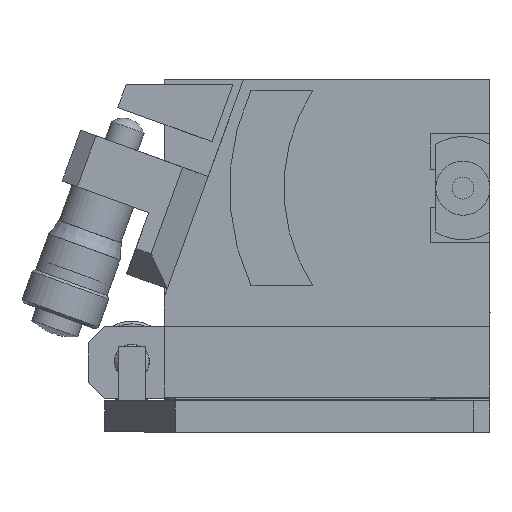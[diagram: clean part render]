
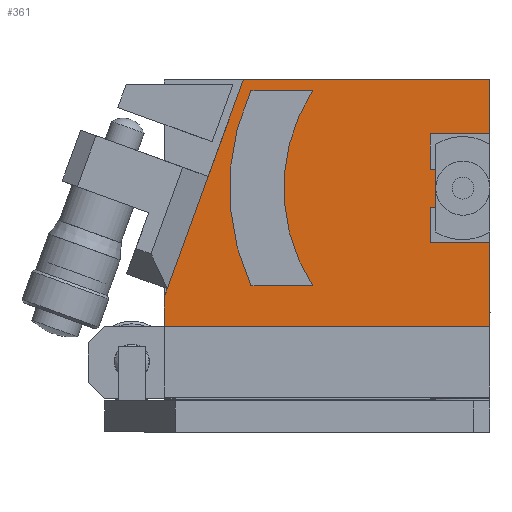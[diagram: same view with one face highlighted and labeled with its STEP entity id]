
A CAD part, front view. The second image highlights one B-rep face of the part: STEP entity #361.
In plain terms, the highlighted planar face has unit normal (0, -1, 0).
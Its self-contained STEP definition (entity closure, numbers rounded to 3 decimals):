
#361 = ADVANCED_FACE( '', ( #732, #733, #734 ), #735, .T. );
#732 = FACE_OUTER_BOUND( '', #1344, .T. );
#733 = FACE_BOUND( '', #1345, .T. );
#734 = FACE_BOUND( '', #1346, .T. );
#735 = PLANE( '', #1347 );
#1344 = EDGE_LOOP( '', ( #2266, #2267, #2268, #2269, #2270, #2271, #2272, #2273, #2274, #2275, #2276, #2277, #2278, #2279, #2280 ) );
#1345 = EDGE_LOOP( '', ( #2281, #2282, #2283, #2284 ) );
#1346 = EDGE_LOOP( '', ( #2285 ) );
#1347 = AXIS2_PLACEMENT_3D( '', #2286, #2287, #2288 );
#2266 = ORIENTED_EDGE( '', *, *, #3291, .F. );
#2267 = ORIENTED_EDGE( '', *, *, #3340, .F. );
#2268 = ORIENTED_EDGE( '', *, *, #3265, .T. );
#2269 = ORIENTED_EDGE( '', *, *, #3341, .T. );
#2270 = ORIENTED_EDGE( '', *, *, #3269, .T. );
#2271 = ORIENTED_EDGE( '', *, *, #3286, .F. );
#2272 = ORIENTED_EDGE( '', *, *, #3342, .T. );
#2273 = ORIENTED_EDGE( '', *, *, #3343, .F. );
#2274 = ORIENTED_EDGE( '', *, *, #3344, .F. );
#2275 = ORIENTED_EDGE( '', *, *, #3257, .F. );
#2276 = ORIENTED_EDGE( '', *, *, #3345, .F. );
#2277 = ORIENTED_EDGE( '', *, *, #3300, .T. );
#2278 = ORIENTED_EDGE( '', *, *, #3346, .F. );
#2279 = ORIENTED_EDGE( '', *, *, #3347, .F. );
#2280 = ORIENTED_EDGE( '', *, *, #3263, .F. );
#2281 = ORIENTED_EDGE( '', *, *, #3348, .F. );
#2282 = ORIENTED_EDGE( '', *, *, #3349, .F. );
#2283 = ORIENTED_EDGE( '', *, *, #3304, .F. );
#2284 = ORIENTED_EDGE( '', *, *, #3350, .F. );
#2285 = ORIENTED_EDGE( '', *, *, #3351, .T. );
#2286 = CARTESIAN_POINT( '', ( -197.124, 11.2, 519.248 ) );
#2287 = DIRECTION( '', ( 0., -1., 0. ) );
#2288 = DIRECTION( '', ( 0., 0., -1. ) );
#3257 = EDGE_CURVE( '', #3812, #3807, #3814, .T. );
#3263 = EDGE_CURVE( '', #3824, #3819, #3826, .T. );
#3265 = EDGE_CURVE( '', #3830, #3827, #3831, .T. );
#3269 = EDGE_CURVE( '', #3838, #3836, #3839, .T. );
#3286 = EDGE_CURVE( '', #3868, #3836, #3870, .T. );
#3291 = EDGE_CURVE( '', #3876, #3824, #3878, .T. );
#3300 = EDGE_CURVE( '', #3895, #3893, #3896, .T. );
#3304 = EDGE_CURVE( '', #3900, #3903, #3904, .F. );
#3340 = EDGE_CURVE( '', #3830, #3876, #3965, .T. );
#3341 = EDGE_CURVE( '', #3827, #3838, #3966, .F. );
#3342 = EDGE_CURVE( '', #3868, #3967, #3968, .F. );
#3343 = EDGE_CURVE( '', #3969, #3967, #3970, .T. );
#3344 = EDGE_CURVE( '', #3807, #3969, #3971, .T. );
#3345 = EDGE_CURVE( '', #3895, #3812, #3972, .T. );
#3346 = EDGE_CURVE( '', #3973, #3893, #3974, .T. );
#3347 = EDGE_CURVE( '', #3819, #3973, #3975, .T. );
#3348 = EDGE_CURVE( '', #3976, #3977, #3978, .T. );
#3349 = EDGE_CURVE( '', #3903, #3976, #3979, .F. );
#3350 = EDGE_CURVE( '', #3977, #3900, #3980, .F. );
#3351 = EDGE_CURVE( '', #3981, #3981, #3982, .F. );
#3807 = VERTEX_POINT( '', #4632 );
#3812 = VERTEX_POINT( '', #4639 );
#3814 = LINE( '', #4642, #4643 );
#3819 = VERTEX_POINT( '', #4648 );
#3824 = VERTEX_POINT( '', #4655 );
#3826 = LINE( '', #4658, #4659 );
#3827 = VERTEX_POINT( '', #4660 );
#3830 = VERTEX_POINT( '', #4664 );
#3831 = LINE( '', #4665, #4666 );
#3836 = VERTEX_POINT( '', #4673 );
#3838 = VERTEX_POINT( '', #4676 );
#3839 = LINE( '', #4677, #4678 );
#3868 = VERTEX_POINT( '', #4718 );
#3870 = LINE( '', #4721, #4722 );
#3876 = VERTEX_POINT( '', #4731 );
#3878 = LINE( '', #4734, #4735 );
#3893 = VERTEX_POINT( '', #4763 );
#3895 = VERTEX_POINT( '', #4766 );
#3896 = LINE( '', #4767, #4768 );
#3900 = VERTEX_POINT( '', #4774 );
#3903 = VERTEX_POINT( '', #4778 );
#3904 = CIRCLE( '', #4779, 33. );
#3965 = LINE( '', #4869, #4870 );
#3966 = LINE( '', #4871, #4872 );
#3967 = VERTEX_POINT( '', #4873 );
#3968 = LINE( '', #4874, #4875 );
#3969 = VERTEX_POINT( '', #4876 );
#3970 = LINE( '', #4877, #4878 );
#3971 = LINE( '', #4879, #4880 );
#3972 = LINE( '', #4881, #4882 );
#3973 = VERTEX_POINT( '', #4883 );
#3974 = LINE( '', #4884, #4885 );
#3975 = LINE( '', #4886, #4887 );
#3976 = VERTEX_POINT( '', #4888 );
#3977 = VERTEX_POINT( '', #4889 );
#3978 = CIRCLE( '', #4890, 43. );
#3979 = LINE( '', #4891, #4892 );
#3980 = LINE( '', #4893, #4894 );
#3981 = VERTEX_POINT( '', #4895 );
#3982 = CIRCLE( '', #4896, 0.935 );
#4632 = CARTESIAN_POINT( '', ( -11., 11.2, 35. ) );
#4639 = CARTESIAN_POINT( '', ( -11., 11.2, 41.5 ) );
#4642 = CARTESIAN_POINT( '', ( -11., 11.2, 41.5 ) );
#4643 = VECTOR( '', #5630, 1000. );
#4648 = CARTESIAN_POINT( '', ( -11., 11.2, 55. ) );
#4655 = CARTESIAN_POINT( '', ( 0., 11.2, 55. ) );
#4658 = CARTESIAN_POINT( '', ( 425.059, 11.2, 55. ) );
#4659 = VECTOR( '', #5640, 1000. );
#4660 = CARTESIAN_POINT( '', ( -51.94, 11.2, 47.146 ) );
#4664 = CARTESIAN_POINT( '', ( -45.441, 11.2, 65. ) );
#4665 = CARTESIAN_POINT( '', ( 82.808, 11.2, 417.361 ) );
#4666 = VECTOR( '', #5642, 1000. );
#4673 = CARTESIAN_POINT( '', ( -60., 11.2, 25. ) );
#4676 = CARTESIAN_POINT( '', ( -59.464, 11.2, 26.473 ) );
#4677 = CARTESIAN_POINT( '', ( 82.808, 11.2, 417.361 ) );
#4678 = VECTOR( '', #5646, 1000. );
#4718 = CARTESIAN_POINT( '', ( -60., 11.2, 19.5 ) );
#4721 = CARTESIAN_POINT( '', ( -60., 11.2, -140.253 ) );
#4722 = VECTOR( '', #5668, 1000. );
#4731 = CARTESIAN_POINT( '', ( 0., 11.2, 65. ) );
#4734 = CARTESIAN_POINT( '', ( 0., 11.2, 35.75 ) );
#4735 = VECTOR( '', #5673, 1000. );
#4763 = CARTESIAN_POINT( '', ( -4., 11.2, 48.5 ) );
#4766 = CARTESIAN_POINT( '', ( -4., 11.2, 41.5 ) );
#4767 = CARTESIAN_POINT( '', ( -4., 11.2, 519.248 ) );
#4768 = VECTOR( '', #5681, 1000. );
#4774 = CARTESIAN_POINT( '', ( -32.659, 11.2, 27. ) );
#4778 = CARTESIAN_POINT( '', ( -32.659, 11.2, 63. ) );
#4779 = AXIS2_PLACEMENT_3D( '', #5685, #5686, #5687 );
#4869 = CARTESIAN_POINT( '', ( -30., 11.2, 65. ) );
#4870 = VECTOR( '', #5735, 1000. );
#4871 = CARTESIAN_POINT( '', ( 82.808, 11.2, 417.361 ) );
#4872 = VECTOR( '', #5736, 1000. );
#4873 = CARTESIAN_POINT( '', ( 0., 11.2, 19.5 ) );
#4874 = CARTESIAN_POINT( '', ( -197.124, 11.2, 19.5 ) );
#4875 = VECTOR( '', #5737, 1000. );
#4876 = CARTESIAN_POINT( '', ( 0., 11.2, 35. ) );
#4877 = CARTESIAN_POINT( '', ( 0., 11.2, 19.5 ) );
#4878 = VECTOR( '', #5738, 1000. );
#4879 = CARTESIAN_POINT( '', ( -11., 11.2, 35. ) );
#4880 = VECTOR( '', #5739, 1000. );
#4881 = CARTESIAN_POINT( '', ( 0., 11.2, 41.5 ) );
#4882 = VECTOR( '', #5740, 1000. );
#4883 = CARTESIAN_POINT( '', ( -11., 11.2, 48.5 ) );
#4884 = CARTESIAN_POINT( '', ( -11., 11.2, 48.5 ) );
#4885 = VECTOR( '', #5741, 1000. );
#4886 = CARTESIAN_POINT( '', ( -11., 11.2, 55. ) );
#4887 = VECTOR( '', #5742, 1000. );
#4888 = CARTESIAN_POINT( '', ( -44.051, 11.2, 63. ) );
#4889 = CARTESIAN_POINT( '', ( -44.051, 11.2, 27. ) );
#4890 = AXIS2_PLACEMENT_3D( '', #5743, #5744, #5745 );
#4891 = CARTESIAN_POINT( '', ( -32.659, 11.2, 63. ) );
#4892 = VECTOR( '', #5746, 1000. );
#4893 = CARTESIAN_POINT( '', ( -44.051, 11.2, 27. ) );
#4894 = VECTOR( '', #5747, 1000. );
#4895 = CARTESIAN_POINT( '', ( -5., 11.2, 44.065 ) );
#4896 = AXIS2_PLACEMENT_3D( '', #5748, #5749, #5750 );
#5630 = DIRECTION( '', ( 0., 0., -1. ) );
#5640 = DIRECTION( '', ( -1., 0., 0. ) );
#5642 = DIRECTION( '', ( -0.342, 0., -0.94 ) );
#5646 = DIRECTION( '', ( -0.342, 0., -0.94 ) );
#5668 = DIRECTION( '', ( 0., 0., 1. ) );
#5673 = DIRECTION( '', ( 0., 0., -1. ) );
#5681 = DIRECTION( '', ( 0., 0., 1. ) );
#5685 = CARTESIAN_POINT( '', ( -5., 11.2, 45. ) );
#5686 = DIRECTION( '', ( 0., -1., 0. ) );
#5687 = DIRECTION( '', ( 0., 0., -1. ) );
#5735 = DIRECTION( '', ( 1., 0., 0. ) );
#5736 = DIRECTION( '', ( 0.342, 0., 0.94 ) );
#5737 = DIRECTION( '', ( -1., 0., 0. ) );
#5738 = DIRECTION( '', ( 0., 0., -1. ) );
#5739 = DIRECTION( '', ( 1., 0., 0. ) );
#5740 = DIRECTION( '', ( -1., 0., 0. ) );
#5741 = DIRECTION( '', ( 1., 0., 0. ) );
#5742 = DIRECTION( '', ( 0., 0., -1. ) );
#5743 = CARTESIAN_POINT( '', ( -5., 11.2, 45. ) );
#5744 = DIRECTION( '', ( 0., -1., 0. ) );
#5745 = DIRECTION( '', ( 0., 0., -1. ) );
#5746 = DIRECTION( '', ( 1., 0., 0. ) );
#5747 = DIRECTION( '', ( -1., 0., 0. ) );
#5748 = CARTESIAN_POINT( '', ( -5., 11.2, 45. ) );
#5749 = DIRECTION( '', ( 0., -1., 0. ) );
#5750 = DIRECTION( '', ( 0., 0., -1. ) );
